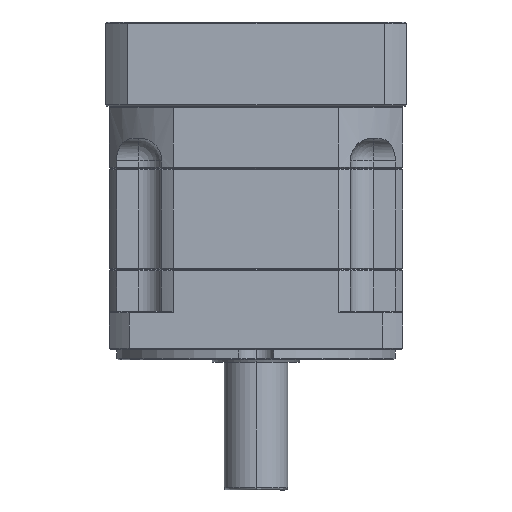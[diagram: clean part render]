
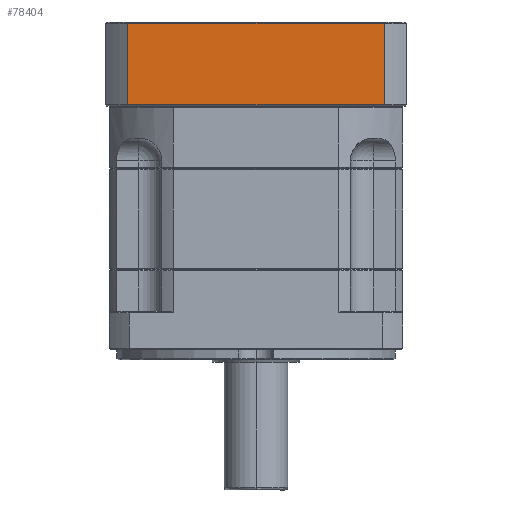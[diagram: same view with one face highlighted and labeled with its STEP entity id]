
A CAD part, left-side view. The second image highlights one B-rep face of the part: STEP entity #78404.
In plain terms, the highlighted planar face has unit normal (-1, 0, 0).
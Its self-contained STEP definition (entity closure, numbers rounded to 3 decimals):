
#2392 = DIRECTION ( 'NONE',  ( 0., 0., -1. ) ) ;
#5135 = ORIENTED_EDGE ( 'NONE', *, *, #58866, .F. ) ;
#6431 = CARTESIAN_POINT ( 'NONE',  ( -5.69, -22.161, -30.51 ) ) ;
#12865 = CARTESIAN_POINT ( 'NONE',  ( -5.69, 78.343, -62.51 ) ) ;
#12899 = LINE ( 'NONE', #17820, #76500 ) ;
#13838 = VERTEX_POINT ( 'NONE', #6431 ) ;
#17820 = CARTESIAN_POINT ( 'NONE',  ( -5.69, -22.161, -30.01 ) ) ;
#20565 = DIRECTION ( 'NONE',  ( 1., 0., 0. ) ) ;
#21383 = VERTEX_POINT ( 'NONE', #93056 ) ;
#25489 = DIRECTION ( 'NONE',  ( 0., 0., -1. ) ) ;
#32188 = VERTEX_POINT ( 'NONE', #12865 ) ;
#32464 = DIRECTION ( 'NONE',  ( 0., -1., 0. ) ) ;
#38711 = CARTESIAN_POINT ( 'NONE',  ( -5.69, 78.343, -30.01 ) ) ;
#39116 = EDGE_CURVE ( 'NONE', #21383, #32188, #116493, .T. ) ;
#48766 = DIRECTION ( 'NONE',  ( 0., 1., 0. ) ) ;
#50139 = VECTOR ( 'NONE', #48766, 1000. ) ;
#54427 = CARTESIAN_POINT ( 'NONE',  ( -5.69, 78.343, -30.51 ) ) ;
#58866 = EDGE_CURVE ( 'NONE', #13838, #117948, #12899, .T. ) ;
#59556 = CARTESIAN_POINT ( 'NONE',  ( -5.69, 78.343, -62.51 ) ) ;
#65933 = EDGE_CURVE ( 'NONE', #32188, #117948, #113551, .T. ) ;
#67425 = VECTOR ( 'NONE', #2392, 1000. ) ;
#67462 = LINE ( 'NONE', #54427, #50139 ) ;
#67668 = ORIENTED_EDGE ( 'NONE', *, *, #89604, .T. ) ;
#73100 = FACE_OUTER_BOUND ( 'NONE', #115445, .T. ) ;
#76084 = AXIS2_PLACEMENT_3D ( 'NONE', #38711, #20565, #94445 ) ;
#76240 = CARTESIAN_POINT ( 'NONE',  ( -5.69, 78.343, -30.01 ) ) ;
#76500 = VECTOR ( 'NONE', #25489, 1000. ) ;
#78404 = ADVANCED_FACE ( 'NONE', ( #73100 ), #111357, .F. ) ;
#87623 = VECTOR ( 'NONE', #32464, 1000. ) ;
#89604 = EDGE_CURVE ( 'NONE', #13838, #21383, #67462, .T. ) ;
#92783 = ORIENTED_EDGE ( 'NONE', *, *, #39116, .T. ) ;
#93056 = CARTESIAN_POINT ( 'NONE',  ( -5.69, 78.343, -30.51 ) ) ;
#94445 = DIRECTION ( 'NONE',  ( 0., 1., 0. ) ) ;
#101269 = CARTESIAN_POINT ( 'NONE',  ( -5.69, -22.161, -62.51 ) ) ;
#102586 = ORIENTED_EDGE ( 'NONE', *, *, #65933, .T. ) ;
#111357 = PLANE ( 'NONE',  #76084 ) ;
#113551 = LINE ( 'NONE', #59556, #87623 ) ;
#115445 = EDGE_LOOP ( 'NONE', ( #5135, #67668, #92783, #102586 ) ) ;
#116493 = LINE ( 'NONE', #76240, #67425 ) ;
#117948 = VERTEX_POINT ( 'NONE', #101269 ) ;
